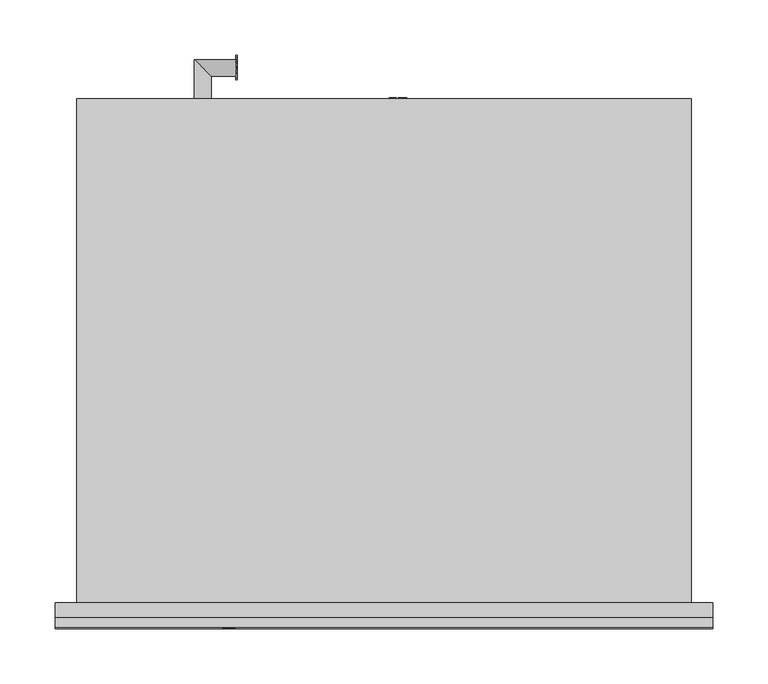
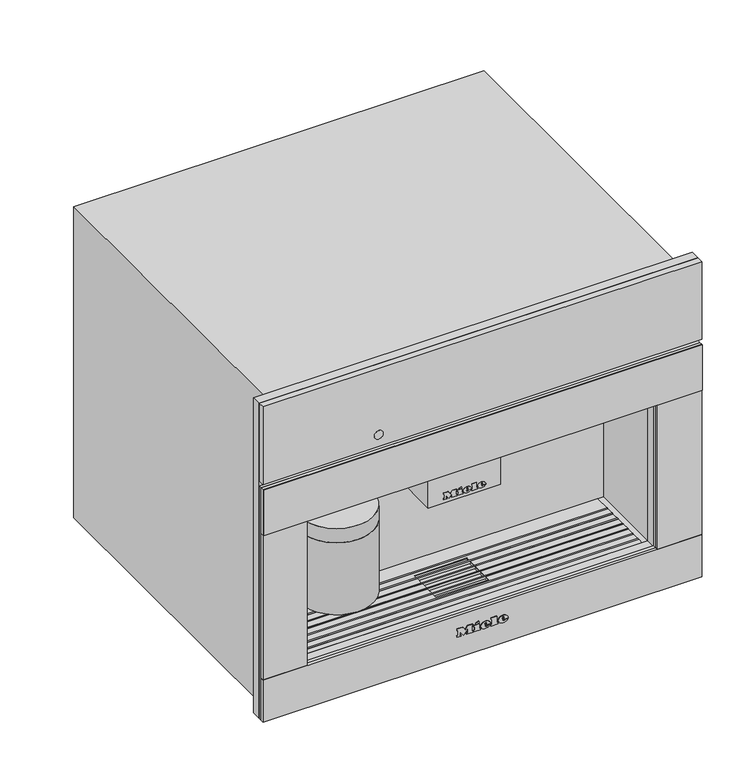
"""IFC4 building model written with IfcOpenShell, lengths in millimetres: proxy geometry, 11164540_F_CVA7445_EDST-CLST : 29744540_F_11164540_CVA7445_EDST-CLST."""

from ifc_helpers import new_model, si_unit, point, frame, frame_2d, origin, place, context, project, spatial, polyline, circle_curve, ellipse_curve, trimmed, segment, composite_curve, outline, extrude, faceted_brep, source, transform, mapped, element, save
from ifc_brep_helpers import plane_surface, cylinder_surface, revolved_surface, extruded_surface, advanced_brep


def specialty_equipment_d38e7a34(model_context):
    return source(origin(), model_context, "Body", "SolidModel", [
        extrude(outline(composite_curve([segment(trimmed(circle_curve(frame_2d((-14.0, 36.5)), 5.0), [point((-9.0, 36.5))], [point((-19.0, 36.5))], False, "CARTESIAN"), True, "CONTINUOUS"), segment(trimmed(circle_curve(frame_2d((-14.0, 36.5)), 5.0), [point((-19.0, 36.5))], [point((-9.0, 36.5))], False, "CARTESIAN"), True, "CONTINUOUS")], self_intersect=False)), frame((0.0, 0.0, 193.0), z_axis=(0.0, 0.0, 1.0), x_axis=(1.0, 0.0, 0.0)), (0.0, 0.0, 1.0), 5.0),
        extrude(outline(composite_curve([segment(trimmed(circle_curve(frame_2d((14.0, 36.5)), 5.0), [point((19.0, 36.5))], [point((9.0, 36.5))], False, "CARTESIAN"), True, "CONTINUOUS"), segment(trimmed(circle_curve(frame_2d((14.0, 36.5)), 5.0), [point((9.0, 36.5))], [point((19.0, 36.5))], False, "CARTESIAN"), True, "CONTINUOUS")], self_intersect=False)), frame((0.0, 0.0, 193.0), z_axis=(0.0, 0.0, 1.0), x_axis=(1.0, 0.0, 0.0)), (0.0, 0.0, 1.0), 5.0),
        extrude(outline(composite_curve([segment(trimmed(circle_curve(frame_2d((-156.5, 49.5)), 50.0), [point((-106.5, 49.5))], [point((-206.5, 49.5))], False, "CARTESIAN"), True, "CONTINUOUS"), segment(trimmed(circle_curve(frame_2d((-156.5, 49.5)), 50.0), [point((-206.5, 49.5))], [point((-106.5, 49.5))], False, "CARTESIAN"), True, "CONTINUOUS")], self_intersect=False)), frame((0.0, 0.0, 100.0), z_axis=(0.0, 0.0, 1.0), x_axis=(1.0, 0.0, 0.0)), (0.0, 0.0, 1.0), 103.0),
        extrude(outline(polyline([(-49.0, 95.0), (49.0, 95.0), (49.0, 20.0), (-49.0, 20.0), (-49.0, 95.0)])), frame((0.0, 0.0, 198.0), z_axis=(0.0, 0.0, 1.0), x_axis=(1.0, 0.0, 0.0)), (0.0, 0.0, 1.0), 75.0),
        extrude(outline(polyline([(455.5, 297.5), (455.5, -297.5), (4.0, -297.5), (4.0, 297.5), (455.5, 297.5)]), holes=[polyline([(273.0, 237.5), (63.0, 237.5), (63.0, -237.5), (273.0, -237.5), (273.0, 237.5)])]), frame((0.0, -13.0, 0.0), z_axis=(0.0, 1.0, 0.0), x_axis=(0.0, 0.0, 1.0)), (0.0, 0.0, 1.0), 13.0),
        extrude(outline(polyline([(473.48348, 22.0), (473.48348, 32.045631), (474.7391839, 32.045631), (474.7391839, 27.128275), (479.8895318, 32.045631), (481.6455552, 32.045631), (477.3217155, 27.9155425), (481.8025182, 22.0), (480.267224, 22.0), (476.4314411, 27.0669613), (474.7391839, 25.4531857), (474.7391839, 22.0), (473.48348, 22.0)])), frame((-134.0, 0.0, 0.0), z_axis=(1.0, 0.0, 0.0), x_axis=(0.0, 1.0, 0.0)), (0.0, 0.0, 1.0), 1.0),
        extrude(outline(polyline([(484.5420128, 22.0), (481.8025182, 32.045631), (483.0974628, 32.045631), (484.6867131, 25.4433755), (485.1772224, 23.4053092), (485.7020674, 25.207931), (487.6935352, 32.045631), (489.5599232, 32.045631), (491.0069257, 27.0890343), (492.0835937, 23.4053092), (492.5593878, 25.3845144), (494.1633533, 32.045631), (495.4582979, 32.045631), (492.7163507, 22.0), (491.3748077, 22.0), (488.9664069, 29.7500474), (488.630408, 30.8316204), (488.2527159, 29.5293182), (486.0576866, 22.0), (484.5420128, 22.0)])), frame((-134.0, 0.0, 0.0), z_axis=(1.0, 0.0, 0.0), x_axis=(0.0, 1.0, 0.0)), (0.0, 0.0, 1.0), 1.0),
        advanced_brep(
        [(-156.5, 456.0, 27.0), (-171.5, 456.0, 27.0), (-156.5, 476.5, 27.0), (-171.5, 491.5, 27.0), (-134.0, 476.5, 27.0), (-134.0, 491.5, 27.0)],
        [
            (0, 1, circle_curve(frame((-164.0, 456.0, 27.0), z_axis=(0.0, -1.0, 0.0), x_axis=(-1.0, 0.0, 0.0)), 7.5)),
            (1, 0, circle_curve(frame((-164.0, 456.0, 27.0), z_axis=(0.0, -1.0, 0.0), x_axis=(-1.0, 0.0, 0.0)), 7.5)),
            (0, 2),
            (2, 3, ellipse_curve(frame((-164.0, 484.0, 27.0), z_axis=(-0.707106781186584, -0.7071067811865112, 0.0), x_axis=(0.7071067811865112, -0.7071067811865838, 0.0)), 10.6066017, 7.5)),
            (3, 1),
            (3, 2, ellipse_curve(frame((-164.0, 484.0, 27.0), z_axis=(-0.707106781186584, -0.7071067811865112, 0.0), x_axis=(0.7071067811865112, -0.7071067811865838, 0.0)), 10.6066017, 7.5)),
            (4, 5, circle_curve(frame((-134.0, 484.0, 27.0), z_axis=(1.0, 0.0, 0.0), x_axis=(0.0, 1.0, 0.0)), 7.5)),
            (5, 4, circle_curve(frame((-134.0, 484.0, 27.0), z_axis=(1.0, 0.0, 0.0), x_axis=(0.0, 1.0, 0.0)), 7.5)),
            (2, 4),
            (5, 3),
        ],
        [
            plane_surface(frame((-164.0, 456.0, 27.0), z_axis=(0.0, -1.0, 0.0), x_axis=(0.0, 0.0, 1.0))),
            cylinder_surface(frame((-164.0, 456.0, 27.0), z_axis=(0.0, -1.0, 0.0), x_axis=(-1.0, 0.0, 0.0)), 7.5),
            plane_surface(frame((-134.0, 484.0, 27.0), z_axis=(1.0, 0.0, 0.0), x_axis=(0.0, 0.0, 1.0))),
            cylinder_surface(frame((-164.0, 484.0, 27.0), z_axis=(-1.0, 0.0, 0.0), x_axis=(0.0, 1.0, 0.0)), 7.5),
        ],
        [
            (0, [[1, 2]]),
            (1, [[-1, 3, 4, 5]]),
            (1, [[-2, -5, 6, -3]]),
            (2, [[7, 8]]),
            (3, [[-4, 9, -8, 10]]),
            (3, [[-6, -10, -7, -9]]),
        ],
    ),
        extrude(outline(polyline([(97.0, 20.4012141), (107.045631, 20.4012141), (107.045631, 13.1809168), (105.7899271, 13.1809168), (105.7899271, 19.1455102), (102.8076304, 19.1455102), (102.8076304, 13.4948427), (101.5519266, 13.4948427), (101.5519266, 19.1455102), (98.2557039, 19.1455102), (98.2557039, 13.0239538), (97.0, 13.0239538), (97.0, 20.4012141)])), frame((0.0, 456.0, 0.0), z_axis=(0.0, 1.0, 0.0), x_axis=(0.0, 0.0, 1.0)), (0.0, 0.0, 1.0), 1.0),
        extrude(outline(polyline([(97.0, 11.140398), (107.045631, 11.140398), (107.045631, 9.8846941), (98.2557039, 9.8846941), (98.2557039, 4.8618786), (97.0, 4.8618786), (97.0, 11.140398)])), frame((0.0, 456.0, 0.0), z_axis=(0.0, 1.0, 0.0), x_axis=(0.0, 0.0, 1.0)), (0.0, 0.0, 1.0), 1.0),
        advanced_brep(
        [(55.0, 425.5, 102.0), (55.0, 410.5, 102.0), (20.5239538, 425.5, 102.0), (5.5239538, 410.5, 102.0), (20.5239538, 456.0, 102.0), (5.5239538, 456.0, 102.0)],
        [
            (0, 1, circle_curve(frame((55.0, 418.0, 102.0), z_axis=(1.0, 0.0, 0.0), x_axis=(0.0, -1.0, 0.0)), 7.5)),
            (1, 0, circle_curve(frame((55.0, 418.0, 102.0), z_axis=(1.0, 0.0, 0.0), x_axis=(0.0, -1.0, 0.0)), 7.5)),
            (0, 2),
            (2, 3, ellipse_curve(frame((13.0239538, 418.0, 102.0), z_axis=(0.7071067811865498, -0.7071067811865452, 0.0), x_axis=(0.7071067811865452, 0.7071067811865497, 0.0)), 10.6066017, 7.5)),
            (3, 1),
            (3, 2, ellipse_curve(frame((13.0239538, 418.0, 102.0), z_axis=(0.7071067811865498, -0.7071067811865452, 0.0), x_axis=(0.7071067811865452, 0.7071067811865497, 0.0)), 10.6066017, 7.5)),
            (4, 5, circle_curve(frame((13.0239538, 456.0, 102.0), z_axis=(0.0, 1.0, 0.0), x_axis=(-1.0, 0.0, 0.0)), 7.5)),
            (5, 4, circle_curve(frame((13.0239538, 456.0, 102.0), z_axis=(0.0, 1.0, 0.0), x_axis=(-1.0, 0.0, 0.0)), 7.5)),
            (2, 4),
            (5, 3),
        ],
        [
            plane_surface(frame((55.0, 418.0, 102.0), z_axis=(1.0, 0.0, 0.0), x_axis=(0.0, 0.0, 1.0))),
            cylinder_surface(frame((55.0, 418.0, 102.0), z_axis=(1.0, 0.0, 0.0), x_axis=(0.0, -1.0, 0.0)), 7.5),
            plane_surface(frame((13.0239538, 456.0, 102.0), z_axis=(0.0, 1.0, 0.0), x_axis=(0.0, 0.0, 1.0))),
            cylinder_surface(frame((13.0239538, 418.0, 102.0), z_axis=(0.0, -1.0, 0.0), x_axis=(-1.0, 0.0, 0.0)), 7.5),
        ],
        [
            (0, [[1, 2]]),
            (1, [[-1, 3, 4, 5]]),
            (1, [[-2, -5, 6, -3]]),
            (2, [[7, 8]]),
            (3, [[-4, 9, -8, 10]]),
            (3, [[-6, -10, -7, -9]]),
        ],
    ),
        advanced_brep(
        [(-110.0, 49.5, 252.0), (-203.0, 49.5, 252.0), (-206.5, 49.5, 223.5), (-106.5, 49.5, 223.5), (-110.0, 49.5, 273.0), (-203.0, 49.5, 273.0), (-156.5, 49.5, 273.0), (-106.5, 49.5, 203.0), (-206.5, 49.5, 203.0), (-156.5, 49.5, 203.0)],
        [
            (0, 1, circle_curve(frame((-156.5, 49.5, 252.0), z_axis=(0.0, 0.0, -1.0), x_axis=(-1.0, 0.0, 0.0)), 46.5)),
            (1, 2, circle_curve(frame((-206.7961166, 49.5, 238.0012775), z_axis=(0.0, 1.0, 0.0), x_axis=(-1.0, 0.0, 0.0)), 14.5043005)),
            (2, 3, circle_curve(frame((-156.5, 49.5, 223.5), z_axis=(0.0, 0.0, 1.0), x_axis=(-1.0, 0.0, 0.0)), 50.0)),
            (3, 0, circle_curve(frame((-106.2038834, 49.5, 238.0012775), z_axis=(0.0, 1.0, 0.0), x_axis=(1.0, 0.0, 0.0)), 14.5043005)),
            (4, 5, circle_curve(frame((-156.5, 49.5, 273.0), z_axis=(0.0, 0.0, -1.0), x_axis=(-1.0, 0.0, 0.0)), 46.5)),
            (5, 1),
            (0, 4),
            (6, 4),
            (4, 5, circle_curve(frame((-156.5, 49.5, 273.0), z_axis=(0.0, 0.0, 1.0), x_axis=(-1.0, 0.0, 0.0)), 46.5)),
            (5, 6),
            (7, 8, circle_curve(frame((-156.5, 49.5, 203.0), z_axis=(0.0, 0.0, -1.0), x_axis=(-1.0, 0.0, 0.0)), 50.0)),
            (8, 9),
            (9, 7),
            (8, 7, circle_curve(frame((-156.5, 49.5, 203.0), z_axis=(0.0, 0.0, -1.0), x_axis=(-1.0, 0.0, 0.0)), 50.0)),
            (2, 8),
            (7, 3),
            (2, 3, circle_curve(frame((-156.5, 49.5, 223.5), z_axis=(0.0, 0.0, -1.0), x_axis=(-1.0, 0.0, 0.0)), 50.0)),
            (1, 0, circle_curve(frame((-156.5, 49.5, 252.0), z_axis=(0.0, 0.0, -1.0), x_axis=(-1.0, 0.0, 0.0)), 46.5)),
        ],
        [
            revolved_surface(trimmed(ellipse_curve(frame((-206.7961166, 49.5, 238.0012775), z_axis=(0.0, -1.0, 0.0), x_axis=(-1.0, 0.0, 0.0)), 14.5043005, 14.5043005), [point((-206.5, 49.5, 223.5))], [point((-203.0, 49.5, 252.0))], True, "CARTESIAN"), (-156.5, 49.5, 388.7361736), (0.0, 0.0, 1.0)),
            cylinder_surface(frame((-156.5, 49.5, 388.7361736), z_axis=(0.0, 0.0, 1.0), x_axis=(-1.0, 0.0, 0.0)), 46.5),
            plane_surface(frame((-156.5, 49.5, 273.0), z_axis=(0.0, 0.0, 1.0), x_axis=(-1.0, 0.0, 0.0))),
            plane_surface(frame((-156.5, 49.5, 203.0), z_axis=(0.0, 0.0, -1.0), x_axis=(-1.0, 0.0, 0.0))),
            cylinder_surface(frame((-156.5, 49.5, 388.7361736), z_axis=(0.0, 0.0, 1.0), x_axis=(-1.0, 0.0, 0.0)), 50.0),
        ],
        [
            (0, [[1, 2, 3, 4]]),
            (1, [[5, 6, -1, 7]]),
            (2, [[8, 9, 10]]),
            (3, [[11, 12, 13]]),
            (3, [[14, -13, -12]]),
            (4, [[-3, 15, -11, 16]]),
            (4, [[17, -16, -14, -15]]),
            (0, [[18, -4, -17, -2]]),
            (1, [[-9, -7, -18, -6]]),
            (2, [[-10, -5, -8]]),
        ],
    ),
        faceted_brep([(229.5, 82.0925571, 60.0), (229.5, 80.0925571, 60.0), (-229.5, 80.0925571, 60.0), (-229.5, 82.0925571, 60.0), (229.5, 70.0550731, 60.0), (229.5, 68.0550731, 60.0), (-229.5, 68.0550731, 60.0), (-229.5, 70.0550731, 60.0), (229.5, 58.0175891, 60.0), (229.5, 56.0175891, 60.0), (-229.5, 56.0175891, 60.0), (-229.5, 58.0175891, 60.0), (229.5, 45.9801052, 60.0), (229.5, 43.9801052, 60.0), (-229.5, 43.9801052, 60.0), (-229.5, 45.9801052, 60.0), (229.5, 33.9426212, 60.0), (229.5, 31.9426212, 60.0), (-229.5, 31.9426212, 60.0), (-229.5, 33.9426212, 60.0), (229.5, 21.9776522, 60.0), (229.5, 19.9776522, 60.0), (-229.5, 19.9776522, 60.0), (-229.5, 21.9776522, 60.0), (229.5, 10.0, 60.0), (229.5, 8.0, 60.0), (-229.5, 8.0, 60.0), (-229.5, 10.0, 60.0), (-229.5, 45.9801052, 62.0), (-36.0, 45.9801052, 62.0), (-36.0, 45.9801052, 63.0), (-229.5, 45.9801052, 63.0), (-229.5, 45.9801052, 63.5), (229.5, 45.9801052, 63.5), (229.5, 45.9801052, 63.0), (36.0, 45.9801052, 63.0), (36.0, 45.9801052, 62.0), (229.5, 45.9801052, 62.0), (229.5, 19.9776522, 62.0), (229.5, 10.0, 62.0), (-229.5, 10.0, 62.0), (-229.5, 19.9776522, 62.0), (229.5, 43.9801052, 62.0), (229.5, 33.9426212, 62.0), (36.0, 33.9426212, 62.0), (36.0, 43.9801052, 62.0), (229.5, 56.0175891, 62.0), (36.0, 56.0175891, 62.0), (229.5, 68.0550731, 62.0), (229.5, 58.0175891, 62.0), (36.0, 58.0175891, 62.0), (36.0, 68.0550731, 62.0), (-229.5, 33.9426212, 62.0), (-229.5, 43.9801052, 62.0), (-36.0, 43.9801052, 62.0), (-36.0, 33.9426212, 62.0), (-229.5, 56.0175891, 62.0), (-36.0, 56.0175891, 62.0), (-229.5, 58.0175891, 62.0), (-229.5, 68.0550731, 62.0), (-36.0, 68.0550731, 62.0), (-36.0, 58.0175891, 62.0), (-229.5, 104.5, 62.0), (229.5, 104.5, 62.0), (229.5, 82.0925571, 62.0), (-229.5, 82.0925571, 62.0), (36.0, 76.0, 62.0), (-36.0, 76.0, 62.0), (-36.0, 70.0550731, 62.0), (-229.5, 70.0550731, 62.0), (-229.5, 80.0925571, 62.0), (229.5, 80.0925571, 62.0), (229.5, 70.0550731, 62.0), (36.0, 70.0550731, 62.0), (229.5, 0.0, 62.0), (-229.5, 0.0, 62.0), (-229.5, 8.0, 62.0), (229.5, 8.0, 62.0), (-36.0, 25.0, 62.0), (36.0, 25.0, 62.0), (36.0, 31.9426212, 62.0), (229.5, 31.9426212, 62.0), (229.5, 21.9776522, 62.0), (-229.5, 21.9776522, 62.0), (-229.5, 31.9426212, 62.0), (-36.0, 31.9426212, 62.0), (229.5, 104.5, 63.0), (-229.5, 104.5, 63.0), (-229.5, 82.0925571, 63.0), (229.5, 82.0925571, 63.0), (-229.5, 0.0, 63.0), (229.5, 0.0, 63.0), (229.5, 8.0, 63.0), (-229.5, 8.0, 63.0), (-36.0, 76.0, 63.0), (36.0, 76.0, 63.0), (36.0, 70.0550731, 63.0), (229.5, 70.0550731, 63.0), (229.5, 80.0925571, 63.0), (-229.5, 80.0925571, 63.0), (-229.5, 70.0550731, 63.0), (-36.0, 70.0550731, 63.0), (36.0, 25.0, 63.0), (-36.0, 25.0, 63.0), (-36.0, 31.9426212, 63.0), (-229.5, 31.9426212, 63.0), (-229.5, 21.9776522, 63.0), (229.5, 21.9776522, 63.0), (229.5, 31.9426212, 63.0), (36.0, 31.9426212, 63.0), (-229.5, 19.9776522, 63.0), (-229.5, 10.0, 63.0), (229.5, 10.0, 63.0), (229.5, 19.9776522, 63.0), (-229.5, 43.9801052, 63.0), (-229.5, 33.9426212, 63.0), (-36.0, 33.9426212, 63.0), (-36.0, 43.9801052, 63.0), (-229.5, 56.0175891, 63.0), (-36.0, 56.0175891, 63.0), (-229.5, 68.0550731, 63.0), (-229.5, 58.0175891, 63.0), (-36.0, 58.0175891, 63.0), (-36.0, 68.0550731, 63.0), (229.5, 33.9426212, 63.0), (229.5, 43.9801052, 63.0), (36.0, 43.9801052, 63.0), (36.0, 33.9426212, 63.0), (229.5, 56.0175891, 63.0), (36.0, 56.0175891, 63.0), (229.5, 58.0175891, 63.0), (229.5, 68.0550731, 63.0), (36.0, 68.0550731, 63.0), (36.0, 58.0175891, 63.0), (-229.5, 8.0, 63.5), (-229.5, 10.0, 63.5), (-229.5, 19.9776522, 63.5), (-229.5, 21.9776522, 63.5), (-229.5, 31.9426212, 63.5), (-229.5, 33.9426212, 63.5), (-229.5, 43.9801052, 63.5), (-229.5, 56.0175891, 63.5), (-229.5, 58.0175891, 63.5), (-229.5, 68.0550731, 63.5), (-229.5, 70.0550731, 63.5), (-229.5, 80.0925571, 63.5), (-229.5, 82.0925571, 63.5), (229.5, 82.0925571, 63.5), (229.5, 80.0925571, 63.5), (229.5, 70.0550731, 63.5), (229.5, 68.0550731, 63.5), (229.5, 58.0175891, 63.5), (229.5, 56.0175891, 63.5), (229.5, 43.9801052, 63.5), (229.5, 33.9426212, 63.5), (229.5, 31.9426212, 63.5), (229.5, 21.9776522, 63.5), (229.5, 19.9776522, 63.5), (229.5, 10.0, 63.5), (229.5, 8.0, 63.5)], [[[0, 1, 2, 3]], [[4, 5, 6, 7]], [[8, 9, 10, 11]], [[12, 13, 14, 15]], [[16, 17, 18, 19]], [[20, 21, 22, 23]], [[24, 25, 26, 27]], [[12, 15, 28, 29, 30, 31, 32, 33, 34, 35, 36, 37]], [[38, 39, 40, 41]], [[42, 43, 44, 45]], [[46, 37, 36, 47]], [[48, 49, 50, 51]], [[52, 53, 54, 55]], [[28, 56, 57, 29]], [[58, 59, 60, 61]], [[62, 63, 64, 65]], [[66, 67, 68, 69, 70, 71, 72, 73]], [[74, 75, 76, 77]], [[78, 79, 80, 81, 82, 83, 84, 85]], [[86, 87, 88, 89]], [[90, 91, 92, 93]], [[94, 95, 96, 97, 98, 99, 100, 101]], [[102, 103, 104, 105, 106, 107, 108, 109]], [[110, 111, 112, 113]], [[114, 115, 116, 117]], [[118, 31, 30, 119]], [[120, 121, 122, 123]], [[124, 125, 126, 127]], [[34, 128, 129, 35]], [[130, 131, 132, 133]], [[63, 62, 87, 86]], [[87, 62, 65, 3, 2, 70, 69, 7, 6, 59, 58, 11, 10, 56, 28, 15, 14, 53, 52, 19, 18, 84, 83, 23, 22, 41, 40, 27, 26, 76, 75, 90, 93, 134, 135, 111, 110, 136, 137, 106, 105, 138, 139, 115, 114, 140, 32, 31, 118, 141, 142, 121, 120, 143, 144, 100, 99, 145, 146, 88]], [[75, 74, 91, 90]], [[63, 86, 89, 147, 148, 98, 97, 149, 150, 131, 130, 151, 152, 128, 34, 33, 153, 125, 124, 154, 155, 108, 107, 156, 157, 113, 112, 158, 159, 92, 91, 74, 77, 25, 24, 39, 38, 21, 20, 82, 81, 17, 16, 43, 42, 13, 12, 37, 46, 9, 8, 49, 48, 5, 4, 72, 71, 1, 0, 64]], [[66, 95, 94, 67]], [[55, 54, 117, 116]], [[29, 57, 119, 30]], [[61, 60, 123, 122]], [[67, 94, 101, 68]], [[103, 78, 85, 104]], [[78, 103, 102, 79]], [[45, 44, 127, 126]], [[47, 36, 35, 129]], [[51, 50, 133, 132]], [[95, 66, 73, 96]], [[79, 102, 109, 80]], [[158, 135, 134, 159]], [[156, 137, 136, 157]], [[154, 139, 138, 155]], [[33, 32, 140, 153]], [[151, 142, 141, 152]], [[149, 144, 143, 150]], [[147, 146, 145, 148]], [[24, 27, 40, 39]], [[135, 158, 112, 111]], [[26, 25, 77, 76]], [[159, 134, 93, 92]], [[20, 23, 83, 82]], [[137, 156, 107, 106]], [[22, 21, 38, 41]], [[157, 136, 110, 113]], [[16, 19, 52, 55, 116, 115, 139, 154, 124, 127, 44, 43]], [[18, 17, 81, 80, 109, 108, 155, 138, 105, 104, 85, 84]], [[14, 13, 42, 45, 126, 125, 153, 140, 114, 117, 54, 53]], [[8, 11, 58, 61, 122, 121, 142, 151, 130, 133, 50, 49]], [[10, 9, 46, 47, 129, 128, 152, 141, 118, 119, 57, 56]], [[4, 7, 69, 68, 101, 100, 144, 149, 97, 96, 73, 72]], [[6, 5, 48, 51, 132, 131, 150, 143, 120, 123, 60, 59]], [[0, 3, 65, 64]], [[146, 147, 89, 88]], [[2, 1, 71, 70]], [[148, 145, 99, 98]]]),
        faceted_brep([(-278.0, 456.0, 0.0), (-278.0, 0.0, 0.0), (-278.0, 0.0, 446.0), (-278.0, 456.0, 446.0), (278.0, 456.0, 0.0), (278.0, 456.0, 446.0), (278.0, 0.0, 446.0), (278.0, 0.0, 0.0), (55.0, 456.0, 133.0), (-22.0, 456.0, 133.0), (-22.0, 456.0, 89.0), (35.0, 456.0, 66.0), (55.0, 456.0, 66.0), (-36.0, 76.0, 58.0), (36.0, 76.0, 58.0), (36.0, 76.0, 62.0), (-36.0, 76.0, 62.0), (36.0, 25.0, 58.0), (-36.0, 25.0, 58.0), (-36.0, 25.0, 62.0), (36.0, 25.0, 62.0), (237.5, 0.0, 273.0), (237.5, 0.0, 63.0), (229.5, 0.0, 63.0), (229.5, 0.0, 62.0), (-229.5, 0.0, 62.0), (-229.5, 0.0, 63.0), (-237.5, 0.0, 63.0), (-237.5, 0.0, 273.0), (237.5, 104.5, 273.0), (-237.5, 104.5, 273.0), (-237.5, 104.5, 63.0), (-229.5, 104.5, 63.0), (-229.5, 104.5, 62.0), (229.5, 104.5, 62.0), (229.5, 104.5, 63.0), (237.5, 104.5, 63.0), (-22.0, 400.0, 133.0), (55.0, 400.0, 133.0), (55.0, 400.0, 66.0), (35.0, 400.0, 66.0), (-22.0, 400.0, 89.0)], [[[0, 1, 2, 3]], [[4, 5, 6, 7]], [[0, 3, 5, 4], [8, 9, 10, 11, 12]], [[13, 14, 15, 16]], [[17, 18, 19, 20]], [[3, 2, 6, 5]], [[2, 1, 7, 6], [21, 22, 23, 24, 25, 26, 27, 28]], [[1, 0, 4, 7]], [[29, 30, 31, 32, 33, 34, 35, 36]], [[29, 36, 22, 21]], [[22, 36, 35, 23]], [[31, 27, 26, 32]], [[31, 30, 28, 27]], [[30, 29, 21, 28]], [[34, 33, 25, 24], [16, 15, 20, 19]], [[25, 33, 32, 26]], [[34, 24, 23, 35]], [[14, 13, 18, 17]], [[18, 13, 16, 19]], [[14, 17, 20, 15]], [[37, 38, 39, 40, 41]], [[38, 37, 9, 8]], [[39, 38, 8, 12]], [[40, 39, 12, 11]], [[41, 40, 11, 10]], [[37, 41, 10, 9]]]),
        advanced_brep(
        [(27.088, -23.0, 36.7018), (27.088, -23.0, 37.8532), (34.7146, -23.0, 37.8532), (21.445, -23.0, 37.8532), (24.58, -23.0, 34.0), (34.5208, -23.0, 36.7018), (31.078, -23.0, 36.7018), (28.3648, -23.0, 35.425), (27.088, -23.0, 39.3124), (27.088, -23.0, 40.555), (29.0374, -23.0, 40.555), (29.0374, -23.0, 39.3124), (27.088, -22.0, 36.7018), (28.3648, -22.0, 35.425), (31.078, -22.0, 36.7018), (34.5208, -22.0, 36.7018), (24.58, -22.0, 34.0), (21.445, -22.0, 37.8532), (34.7146, -22.0, 37.8532), (27.088, -22.0, 37.8532), (27.088, -22.0, 39.3124), (29.0374, -22.0, 39.3124), (29.0374, -22.0, 40.555), (27.088, -22.0, 40.555)],
        [
            (0, 1),
            (1, 2),
            (2, 3, ellipse_curve(frame((28.0798, -23.0, 37.8532), z_axis=(0.0, -1.0, 0.0), x_axis=(-1.0, 0.0, 0.0)), 6.6348, 5.4834)),
            (3, 4, circle_curve(frame((25.8568622, -23.0, 38.2408), z_axis=(0.0, -1.0, 0.0), x_axis=(0.0, 0.0, -1.0)), 4.4288556)),
            (4, 5, circle_curve(frame((27.9469808, -23.0, 41.2504), z_axis=(0.0, -1.0, 0.0), x_axis=(0.0, 0.0, -1.0)), 7.9940516)),
            (5, 6),
            (6, 7, circle_curve(frame((28.9220588, -23.0, 37.762), z_axis=(0.0, 1.0, 0.0), x_axis=(0.0, 0.0, -1.0)), 2.4025208)),
            (7, 0, circle_curve(frame((28.3648, -23.0, 36.7018), z_axis=(0.0, 1.0, 0.0), x_axis=(0.0, 0.0, -1.0)), 1.2768)),
            (8, 9),
            (9, 10, circle_curve(frame((28.0627, -23.0, 40.555), z_axis=(0.0, 1.0, 0.0), x_axis=(0.0, 0.0, -1.0)), 0.9747)),
            (10, 11),
            (11, 8),
            (12, 13, circle_curve(frame((28.3648, -22.0, 36.7018), z_axis=(0.0, -1.0, 0.0), x_axis=(0.0, 0.0, -1.0)), 1.2768)),
            (13, 14, circle_curve(frame((28.9220588, -22.0, 37.762), z_axis=(0.0, -1.0, 0.0), x_axis=(0.0, 0.0, -1.0)), 2.4025208)),
            (14, 15),
            (15, 16, circle_curve(frame((27.9469808, -22.0, 41.2504), z_axis=(0.0, 1.0, 0.0), x_axis=(0.0, 0.0, -1.0)), 7.9940516)),
            (16, 17, circle_curve(frame((25.8568622, -22.0, 38.2408), z_axis=(0.0, 1.0, 0.0), x_axis=(0.0, 0.0, -1.0)), 4.4288556)),
            (17, 18, ellipse_curve(frame((28.0798, -22.0, 37.8532), z_axis=(0.0, 1.0, 0.0), x_axis=(-1.0, 0.0, 0.0)), 6.6348, 5.4834)),
            (18, 19),
            (19, 12),
            (20, 21),
            (21, 22),
            (22, 23, circle_curve(frame((28.0627, -22.0, 40.555), z_axis=(0.0, -1.0, 0.0), x_axis=(0.0, 0.0, -1.0)), 0.9747)),
            (23, 20),
            (0, 12),
            (19, 1),
            (18, 2),
            (5, 15),
            (14, 6),
            (17, 3),
            (13, 7),
            (16, 4),
            (8, 20),
            (23, 9),
            (22, 10),
            (21, 11),
        ],
        [
            plane_surface(frame((27.088, -23.0, 37.8532), z_axis=(0.0, -1.0, 0.0), x_axis=(0.0, 0.0, 1.0))),
            plane_surface(frame((27.088, -22.0, 37.8532), z_axis=(0.0, 1.0, 0.0), x_axis=(0.0, 0.0, -1.0))),
            plane_surface(frame((27.088, -23.0, 36.7018), z_axis=(1.0, 0.0, 0.0), x_axis=(0.0, 1.0, 0.0))),
            plane_surface(frame((27.088, -23.0, 37.8532), z_axis=(0.0, 0.0, -1.0), x_axis=(0.0, 1.0, 0.0))),
            plane_surface(frame((34.5208, -23.0, 36.7018), z_axis=(0.0, 0.0, 1.0), x_axis=(0.0, 1.0, 0.0))),
            extruded_surface(trimmed(ellipse_curve(frame((28.0798, -21.0, 37.8532), z_axis=(0.0, -1.0, 0.0), x_axis=(-1.0, 0.0, 0.0)), 6.6348, 5.4834), [point((34.7146, -21.0, 37.8532))], [point((21.445, -21.0, 37.8532))], True, "CARTESIAN"), (0.0, -1.0, 0.0), 1.0),
            revolved_surface(polyline([(28.9220588, -22.0, 35.3594792), (28.9220588, -23.0, 35.3594792)]), (28.9220588, -22.0, 37.762), (0.0, 1.0, 0.0)),
            revolved_surface(polyline([(28.3648, -22.0, 35.425), (28.3648, -23.0, 35.425)]), (28.3648, -22.0, 36.7018), (0.0, 1.0, 0.0)),
            cylinder_surface(frame((25.8568622, -22.0, 38.2408), z_axis=(0.0, -1.0, 0.0), x_axis=(0.0, 0.0, -1.0)), 4.4288556),
            cylinder_surface(frame((27.9469808, -22.0, 41.2504), z_axis=(0.0, -1.0, 0.0), x_axis=(0.0, 0.0, -1.0)), 7.9940516),
            plane_surface(frame((27.088, -23.0, 39.3124), z_axis=(1.0, 0.0, 0.0), x_axis=(0.0, 1.0, 0.0))),
            revolved_surface(polyline([(28.0627, -22.0, 39.5803), (28.0627, -23.0, 39.5803)]), (28.0627, -22.0, 40.555), (0.0, 1.0, 0.0)),
            plane_surface(frame((29.0374, -23.0, 40.555), z_axis=(-1.0, 0.0, 0.0), x_axis=(0.0, 1.0, 0.0))),
            plane_surface(frame((29.0374, -23.0, 39.3124), z_axis=(0.0, 0.0, 1.0), x_axis=(0.0, 1.0, 0.0))),
        ],
        [
            (0, [[1, 2, 3, 4, 5, 6, 7, 8], [9, 10, 11, 12]]),
            (1, [[13, 14, 15, 16, 17, 18, 19, 20], [21, 22, 23, 24]]),
            (2, [[-1, 25, -20, 26]]),
            (3, [[-2, -26, -19, 27]]),
            (4, [[-6, 28, -15, 29]]),
            (5, [[-3, -27, -18, 30]]),
            (6, [[-7, -29, -14, 31]]),
            (7, [[-8, -31, -13, -25]]),
            (8, [[-4, -30, -17, 32]]),
            (9, [[-5, -32, -16, -28]]),
            (10, [[-9, 33, -24, 34]]),
            (11, [[-10, -34, -23, 35]]),
            (12, [[-11, -35, -22, 36]]),
            (13, [[-12, -36, -21, -33]]),
        ],
    ),
        advanced_brep(
        [(3.2962, -23.0, 36.7018), (3.2962, -23.0, 37.8532), (10.9228, -23.0, 37.8532), (-2.3468, -23.0, 37.8532), (0.7882, -23.0, 34.0), (10.729, -23.0, 36.7018), (7.2862, -23.0, 36.7018), (4.573, -23.0, 35.425), (3.2962, -23.0, 39.3124), (3.2962, -23.0, 40.555), (5.2456, -23.0, 40.555), (5.2456, -23.0, 39.3124), (3.2962, -22.0, 36.7018), (4.573, -22.0, 35.425), (7.2862, -22.0, 36.7018), (10.729, -22.0, 36.7018), (0.7882, -22.0, 34.0), (-2.3468, -22.0, 37.8532), (10.9228, -22.0, 37.8532), (3.2962, -22.0, 37.8532), (3.2962, -22.0, 39.3124), (5.2456, -22.0, 39.3124), (5.2456, -22.0, 40.555), (3.2962, -22.0, 40.555)],
        [
            (0, 1),
            (1, 2),
            (2, 3, ellipse_curve(frame((4.288, -23.0, 37.8532), z_axis=(0.0, -1.0, 0.0), x_axis=(-1.0, 0.0, 0.0)), 6.6348, 5.4834)),
            (3, 4, circle_curve(frame((2.0650622, -23.0, 38.2408), z_axis=(0.0, -1.0, 0.0), x_axis=(0.0, 0.0, -1.0)), 4.4288556)),
            (4, 5, circle_curve(frame((4.1551808, -23.0, 41.2504), z_axis=(0.0, -1.0, 0.0), x_axis=(0.0, 0.0, -1.0)), 7.9940516)),
            (5, 6),
            (6, 7, circle_curve(frame((5.1302588, -23.0, 37.762), z_axis=(0.0, 1.0, 0.0), x_axis=(0.0, 0.0, -1.0)), 2.4025208)),
            (7, 0, circle_curve(frame((4.573, -23.0, 36.7018), z_axis=(0.0, 1.0, 0.0), x_axis=(0.0, 0.0, -1.0)), 1.2768)),
            (8, 9),
            (9, 10, circle_curve(frame((4.2709, -23.0, 40.555), z_axis=(0.0, 1.0, 0.0), x_axis=(0.0, 0.0, -1.0)), 0.9747)),
            (10, 11),
            (11, 8),
            (12, 13, circle_curve(frame((4.573, -22.0, 36.7018), z_axis=(0.0, -1.0, 0.0), x_axis=(0.0, 0.0, -1.0)), 1.2768)),
            (13, 14, circle_curve(frame((5.1302588, -22.0, 37.762), z_axis=(0.0, -1.0, 0.0), x_axis=(0.0, 0.0, -1.0)), 2.4025208)),
            (14, 15),
            (15, 16, circle_curve(frame((4.1551808, -22.0, 41.2504), z_axis=(0.0, 1.0, 0.0), x_axis=(0.0, 0.0, -1.0)), 7.9940516)),
            (16, 17, circle_curve(frame((2.0650622, -22.0, 38.2408), z_axis=(0.0, 1.0, 0.0), x_axis=(0.0, 0.0, -1.0)), 4.4288556)),
            (17, 18, ellipse_curve(frame((4.288, -22.0, 37.8532), z_axis=(0.0, 1.0, 0.0), x_axis=(-1.0, 0.0, 0.0)), 6.6348, 5.4834)),
            (18, 19),
            (19, 12),
            (20, 21),
            (21, 22),
            (22, 23, circle_curve(frame((4.2709, -22.0, 40.555), z_axis=(0.0, -1.0, 0.0), x_axis=(0.0, 0.0, -1.0)), 0.9747)),
            (23, 20),
            (0, 12),
            (19, 1),
            (18, 2),
            (5, 15),
            (14, 6),
            (17, 3),
            (13, 7),
            (16, 4),
            (8, 20),
            (23, 9),
            (22, 10),
            (21, 11),
        ],
        [
            plane_surface(frame((3.2962, -23.0, 37.8532), z_axis=(0.0, -1.0, 0.0), x_axis=(0.0, 0.0, 1.0))),
            plane_surface(frame((3.2962, -22.0, 37.8532), z_axis=(0.0, 1.0, 0.0), x_axis=(0.0, 0.0, -1.0))),
            plane_surface(frame((3.2962, -23.0, 36.7018), z_axis=(1.0, 0.0, 0.0), x_axis=(0.0, 1.0, 0.0))),
            plane_surface(frame((3.2962, -23.0, 37.8532), z_axis=(0.0, 0.0, -1.0), x_axis=(0.0, 1.0, 0.0))),
            plane_surface(frame((10.729, -23.0, 36.7018), z_axis=(0.0, 0.0, 1.0), x_axis=(0.0, 1.0, 0.0))),
            extruded_surface(trimmed(ellipse_curve(frame((4.288, -21.0, 37.8532), z_axis=(0.0, -1.0, 0.0), x_axis=(-1.0, 0.0, 0.0)), 6.6348, 5.4834), [point((10.9228, -21.0, 37.8532))], [point((-2.3468, -21.0, 37.8532))], True, "CARTESIAN"), (0.0, -1.0, 0.0), 1.0),
            revolved_surface(polyline([(5.1302588, -22.0, 35.3594792), (5.1302588, -23.0, 35.3594792)]), (5.1302588, -22.0, 37.762), (0.0, 1.0, 0.0)),
            revolved_surface(polyline([(4.573, -22.0, 35.425), (4.573, -23.0, 35.425)]), (4.573, -22.0, 36.7018), (0.0, 1.0, 0.0)),
            cylinder_surface(frame((2.0650622, -22.0, 38.2408), z_axis=(0.0, -1.0, 0.0), x_axis=(0.0, 0.0, -1.0)), 4.4288556),
            cylinder_surface(frame((4.1551808, -22.0, 41.2504), z_axis=(0.0, -1.0, 0.0), x_axis=(0.0, 0.0, -1.0)), 7.9940516),
            plane_surface(frame((3.2962, -23.0, 39.3124), z_axis=(1.0, 0.0, 0.0), x_axis=(0.0, 1.0, 0.0))),
            revolved_surface(polyline([(4.2709, -22.0, 39.5803), (4.2709, -23.0, 39.5803)]), (4.2709, -22.0, 40.555), (0.0, 1.0, 0.0)),
            plane_surface(frame((5.2456, -23.0, 40.555), z_axis=(-1.0, 0.0, 0.0), x_axis=(0.0, 1.0, 0.0))),
            plane_surface(frame((5.2456, -23.0, 39.3124), z_axis=(0.0, 0.0, 1.0), x_axis=(0.0, 1.0, 0.0))),
        ],
        [
            (0, [[1, 2, 3, 4, 5, 6, 7, 8], [9, 10, 11, 12]]),
            (1, [[13, 14, 15, 16, 17, 18, 19, 20], [21, 22, 23, 24]]),
            (2, [[-1, 25, -20, 26]]),
            (3, [[-2, -26, -19, 27]]),
            (4, [[-6, 28, -15, 29]]),
            (5, [[-3, -27, -18, 30]]),
            (6, [[-7, -29, -14, 31]]),
            (7, [[-8, -31, -13, -25]]),
            (8, [[-4, -30, -17, 32]]),
            (9, [[-5, -32, -16, -28]]),
            (10, [[-9, 33, -24, 34]]),
            (11, [[-10, -34, -23, 35]]),
            (12, [[-11, -35, -22, 36]]),
            (13, [[-12, -36, -21, -33]]),
        ],
    ),
        extrude(outline(polyline([(44.7274, -9.164), (42.8806, -8.2976), (44.6818, -4.433), (46.5286, -5.288), (44.7274, -9.164)])), frame((0.0, -23.0, 0.0), z_axis=(0.0, 1.0, 0.0), x_axis=(0.0, 0.0, 1.0)), (0.0, 0.0, 1.0), 1.0),
        extrude(outline(polyline([(42.6298, -11.9798), (40.5892, -11.9798), (40.5892, -10.6232), (35.9152, -10.6232), (35.9152, -11.9798), (34.0, -11.9798), (34.0, -2.9852), (35.9152, -2.9852), (35.9152, -4.3076), (42.6298, -4.3076), (42.6298, -11.9798)])), frame((0.0, -23.0, 0.0), z_axis=(0.0, 1.0, 0.0), x_axis=(0.0, 0.0, 1.0)), (0.0, 0.0, 1.0), 1.0),
        extrude(outline(polyline([(43.5418, 11.5612), (43.5418, 12.9292), (35.9152, 12.9292), (35.9152, 11.5612), (34.0, 11.5612), (34.0, 20.8066), (35.9152, 20.8066), (35.9152, 19.4044), (45.4, 19.4044), (45.4, 11.5612), (43.5418, 11.5612)])), frame((0.0, -23.0, 0.0), z_axis=(0.0, 1.0, 0.0), x_axis=(0.0, 0.0, 1.0)), (0.0, 0.0, 1.0), 1.0),
        extrude(outline(polyline([(43.5418, -34.7), (43.5418, -33.3206), (35.9152, -33.3206), (35.9152, -34.7), (34.0, -34.7), (34.0, -29.684), (35.9152, -29.684), (35.9152, -31.052), (40.7429247, -31.052), (34.0, -25.9562), (40.9402223, -20.8376), (35.9152, -20.8376), (35.9152, -22.2398), (34.0, -22.2398), (34.0, -13.1426), (35.9152, -13.1426), (35.9152, -14.5904), (43.5418, -14.5904), (43.5418, -13.1426), (45.4, -13.1426), (45.4, -20.0852), (41.125, -23.414), (45.4, -26.7542), (45.4, -34.7), (43.5418, -34.7)])), frame((0.0, -23.0, 0.0), z_axis=(0.0, 1.0, 0.0), x_axis=(0.0, 0.0, 1.0)), (0.0, 0.0, 1.0), 1.0),
        advanced_brep(
        [(22.348, 19.0, 205.5278), (22.348, 19.0, 206.4772), (28.6366, 19.0, 206.4772), (17.695, 19.0, 206.4772), (20.28, 19.0, 203.3), (28.4768, 19.0, 205.5278), (25.638, 19.0, 205.5278), (23.4008, 19.0, 204.475), (22.348, 19.0, 207.6804), (22.348, 19.0, 208.705), (23.9554, 19.0, 208.705), (23.9554, 19.0, 207.6804), (22.348, 20.0, 205.5278), (23.4008, 20.0, 204.475), (25.638, 20.0, 205.5278), (28.4768, 20.0, 205.5278), (20.28, 20.0, 203.3), (17.695, 20.0, 206.4772), (28.6366, 20.0, 206.4772), (22.348, 20.0, 206.4772), (22.348, 20.0, 207.6804), (23.9554, 20.0, 207.6804), (23.9554, 20.0, 208.705), (22.348, 20.0, 208.705)],
        [
            (0, 1),
            (1, 2),
            (2, 3, ellipse_curve(frame((23.1658, 19.0, 206.4772), z_axis=(0.0, -1.0, 0.0), x_axis=(-1.0, 0.0, 0.0)), 5.4708, 4.5214)),
            (3, 4, circle_curve(frame((21.3328513, 19.0, 206.7968), z_axis=(0.0, -1.0, 0.0), x_axis=(0.0, 0.0, -1.0)), 3.6518634)),
            (4, 5, circle_curve(frame((23.0562825, 19.0, 209.2784), z_axis=(0.0, -1.0, 0.0), x_axis=(0.0, 0.0, -1.0)), 6.5915864)),
            (5, 6),
            (6, 7, circle_curve(frame((23.8602941, 19.0, 206.402), z_axis=(0.0, 1.0, 0.0), x_axis=(0.0, 0.0, -1.0)), 1.981026)),
            (7, 0, circle_curve(frame((23.4008, 19.0, 205.5278), z_axis=(0.0, 1.0, 0.0), x_axis=(0.0, 0.0, -1.0)), 1.0528)),
            (8, 9),
            (9, 10, circle_curve(frame((23.1517, 19.0, 208.705), z_axis=(0.0, 1.0, 0.0), x_axis=(0.0, 0.0, -1.0)), 0.8037)),
            (10, 11),
            (11, 8),
            (12, 13, circle_curve(frame((23.4008, 20.0, 205.5278), z_axis=(0.0, -1.0, 0.0), x_axis=(0.0, 0.0, -1.0)), 1.0528)),
            (13, 14, circle_curve(frame((23.8602941, 20.0, 206.402), z_axis=(0.0, -1.0, 0.0), x_axis=(0.0, 0.0, -1.0)), 1.981026)),
            (14, 15),
            (15, 16, circle_curve(frame((23.0562825, 20.0, 209.2784), z_axis=(0.0, 1.0, 0.0), x_axis=(0.0, 0.0, -1.0)), 6.5915864)),
            (16, 17, circle_curve(frame((21.3328513, 20.0, 206.7968), z_axis=(0.0, 1.0, 0.0), x_axis=(0.0, 0.0, -1.0)), 3.6518634)),
            (17, 18, ellipse_curve(frame((23.1658, 20.0, 206.4772), z_axis=(0.0, 1.0, 0.0), x_axis=(-1.0, 0.0, 0.0)), 5.4708, 4.5214)),
            (18, 19),
            (19, 12),
            (20, 21),
            (21, 22),
            (22, 23, circle_curve(frame((23.1517, 20.0, 208.705), z_axis=(0.0, -1.0, 0.0), x_axis=(0.0, 0.0, -1.0)), 0.8037)),
            (23, 20),
            (0, 12),
            (19, 1),
            (18, 2),
            (5, 15),
            (14, 6),
            (17, 3),
            (13, 7),
            (16, 4),
            (8, 20),
            (23, 9),
            (22, 10),
            (21, 11),
        ],
        [
            plane_surface(frame((22.348, 19.0, 206.4772), z_axis=(0.0, -1.0, 0.0), x_axis=(0.0, 0.0, 1.0))),
            plane_surface(frame((22.348, 20.0, 206.4772), z_axis=(0.0, 1.0, 0.0), x_axis=(0.0, 0.0, -1.0))),
            plane_surface(frame((22.348, 19.0, 205.5278), z_axis=(1.0, 0.0, 0.0), x_axis=(0.0, 1.0, 0.0))),
            plane_surface(frame((22.348, 19.0, 206.4772), z_axis=(0.0, 0.0, -1.0), x_axis=(0.0, 1.0, 0.0))),
            plane_surface(frame((28.4768, 19.0, 205.5278), z_axis=(0.0, 0.0, 1.0), x_axis=(0.0, 1.0, 0.0))),
            extruded_surface(trimmed(ellipse_curve(frame((23.1658, 21.0, 206.4772), z_axis=(0.0, -1.0, 0.0), x_axis=(-1.0, 0.0, 0.0)), 5.4708, 4.5214), [point((28.6366, 21.0, 206.4772))], [point((17.695, 21.0, 206.4772))], True, "CARTESIAN"), (0.0, -1.0, 0.0), 1.0),
            revolved_surface(polyline([(23.8602941, 20.0, 204.420974), (23.8602941, 19.0, 204.420974)]), (23.8602941, 20.0, 206.402), (0.0, 1.0, 0.0)),
            revolved_surface(polyline([(23.4008, 20.0, 204.47500000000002), (23.4008, 19.0, 204.47500000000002)]), (23.4008, 20.0, 205.5278), (0.0, 1.0, 0.0)),
            cylinder_surface(frame((21.3328513, 20.0, 206.7968), z_axis=(0.0, -1.0, 0.0), x_axis=(0.0, 0.0, -1.0)), 3.6518634),
            cylinder_surface(frame((23.0562825, 20.0, 209.2784), z_axis=(0.0, -1.0, 0.0), x_axis=(0.0, 0.0, -1.0)), 6.5915864),
            plane_surface(frame((22.348, 19.0, 207.6804), z_axis=(1.0, 0.0, 0.0), x_axis=(0.0, 1.0, 0.0))),
            revolved_surface(polyline([(23.1517, 20.0, 207.90130000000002), (23.1517, 19.0, 207.90130000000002)]), (23.1517, 20.0, 208.705), (0.0, 1.0, 0.0)),
            plane_surface(frame((23.9554, 19.0, 208.705), z_axis=(-1.0, 0.0, 0.0), x_axis=(0.0, 1.0, 0.0))),
            plane_surface(frame((23.9554, 19.0, 207.6804), z_axis=(0.0, 0.0, 1.0), x_axis=(0.0, 1.0, 0.0))),
        ],
        [
            (0, [[1, 2, 3, 4, 5, 6, 7, 8], [9, 10, 11, 12]]),
            (1, [[13, 14, 15, 16, 17, 18, 19, 20], [21, 22, 23, 24]]),
            (2, [[-1, 25, -20, 26]]),
            (3, [[-2, -26, -19, 27]]),
            (4, [[-6, 28, -15, 29]]),
            (5, [[-3, -27, -18, 30]]),
            (6, [[-7, -29, -14, 31]]),
            (7, [[-8, -31, -13, -25]]),
            (8, [[-4, -30, -17, 32]]),
            (9, [[-5, -32, -16, -28]]),
            (10, [[-9, 33, -24, 34]]),
            (11, [[-10, -34, -23, 35]]),
            (12, [[-11, -35, -22, 36]]),
            (13, [[-12, -36, -21, -33]]),
        ],
    ),
        advanced_brep(
        [(2.7302, 19.0, 205.5278), (2.7302, 19.0, 206.4772), (9.0188, 19.0, 206.4772), (-1.9228, 19.0, 206.4772), (0.6622, 19.0, 203.3), (8.859, 19.0, 205.5278), (6.0202, 19.0, 205.5278), (3.783, 19.0, 204.475), (2.7302, 19.0, 207.6804), (2.7302, 19.0, 208.705), (4.3376, 19.0, 208.705), (4.3376, 19.0, 207.6804), (2.7302, 20.0, 205.5278), (3.783, 20.0, 204.475), (6.0202, 20.0, 205.5278), (8.859, 20.0, 205.5278), (0.6622, 20.0, 203.3), (-1.9228, 20.0, 206.4772), (9.0188, 20.0, 206.4772), (2.7302, 20.0, 206.4772), (2.7302, 20.0, 207.6804), (4.3376, 20.0, 207.6804), (4.3376, 20.0, 208.705), (2.7302, 20.0, 208.705)],
        [
            (0, 1),
            (1, 2),
            (2, 3, ellipse_curve(frame((3.548, 19.0, 206.4772), z_axis=(0.0, -1.0, 0.0), x_axis=(-1.0, 0.0, 0.0)), 5.4708, 4.5214)),
            (3, 4, circle_curve(frame((1.7150513, 19.0, 206.7968), z_axis=(0.0, -1.0, 0.0), x_axis=(0.0, 0.0, -1.0)), 3.6518634)),
            (4, 5, circle_curve(frame((3.4384825, 19.0, 209.2784), z_axis=(0.0, -1.0, 0.0), x_axis=(0.0, 0.0, -1.0)), 6.5915864)),
            (5, 6),
            (6, 7, circle_curve(frame((4.2424941, 19.0, 206.402), z_axis=(0.0, 1.0, 0.0), x_axis=(0.0, 0.0, -1.0)), 1.981026)),
            (7, 0, circle_curve(frame((3.783, 19.0, 205.5278), z_axis=(0.0, 1.0, 0.0), x_axis=(0.0, 0.0, -1.0)), 1.0528)),
            (8, 9),
            (9, 10, circle_curve(frame((3.5339, 19.0, 208.705), z_axis=(0.0, 1.0, 0.0), x_axis=(0.0, 0.0, -1.0)), 0.8037)),
            (10, 11),
            (11, 8),
            (12, 13, circle_curve(frame((3.783, 20.0, 205.5278), z_axis=(0.0, -1.0, 0.0), x_axis=(0.0, 0.0, -1.0)), 1.0528)),
            (13, 14, circle_curve(frame((4.2424941, 20.0, 206.402), z_axis=(0.0, -1.0, 0.0), x_axis=(0.0, 0.0, -1.0)), 1.981026)),
            (14, 15),
            (15, 16, circle_curve(frame((3.4384825, 20.0, 209.2784), z_axis=(0.0, 1.0, 0.0), x_axis=(0.0, 0.0, -1.0)), 6.5915864)),
            (16, 17, circle_curve(frame((1.7150513, 20.0, 206.7968), z_axis=(0.0, 1.0, 0.0), x_axis=(0.0, 0.0, -1.0)), 3.6518634)),
            (17, 18, ellipse_curve(frame((3.548, 20.0, 206.4772), z_axis=(0.0, 1.0, 0.0), x_axis=(-1.0, 0.0, 0.0)), 5.4708, 4.5214)),
            (18, 19),
            (19, 12),
            (20, 21),
            (21, 22),
            (22, 23, circle_curve(frame((3.5339, 20.0, 208.705), z_axis=(0.0, -1.0, 0.0), x_axis=(0.0, 0.0, -1.0)), 0.8037)),
            (23, 20),
            (0, 12),
            (19, 1),
            (18, 2),
            (5, 15),
            (14, 6),
            (17, 3),
            (13, 7),
            (16, 4),
            (8, 20),
            (23, 9),
            (22, 10),
            (21, 11),
        ],
        [
            plane_surface(frame((2.7302, 19.0, 206.4772), z_axis=(0.0, -1.0, 0.0), x_axis=(0.0, 0.0, 1.0))),
            plane_surface(frame((2.7302, 20.0, 206.4772), z_axis=(0.0, 1.0, 0.0), x_axis=(0.0, 0.0, -1.0))),
            plane_surface(frame((2.7302, 19.0, 205.5278), z_axis=(1.0, 0.0, 0.0), x_axis=(0.0, 1.0, 0.0))),
            plane_surface(frame((2.7302, 19.0, 206.4772), z_axis=(0.0, 0.0, -1.0), x_axis=(0.0, 1.0, 0.0))),
            plane_surface(frame((8.859, 19.0, 205.5278), z_axis=(0.0, 0.0, 1.0), x_axis=(0.0, 1.0, 0.0))),
            extruded_surface(trimmed(ellipse_curve(frame((3.548, 21.0, 206.4772), z_axis=(0.0, -1.0, 0.0), x_axis=(-1.0, 0.0, 0.0)), 5.4708, 4.5214), [point((9.0188, 21.0, 206.4772))], [point((-1.9228, 21.0, 206.4772))], True, "CARTESIAN"), (0.0, -1.0, 0.0), 1.0),
            revolved_surface(polyline([(4.2424941, 20.0, 204.420974), (4.2424941, 19.0, 204.420974)]), (4.2424941, 20.0, 206.402), (0.0, 1.0, 0.0)),
            revolved_surface(polyline([(3.783, 20.0, 204.47500000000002), (3.783, 19.0, 204.47500000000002)]), (3.783, 20.0, 205.5278), (0.0, 1.0, 0.0)),
            cylinder_surface(frame((1.7150513, 20.0, 206.7968), z_axis=(0.0, -1.0, 0.0), x_axis=(0.0, 0.0, -1.0)), 3.6518634),
            cylinder_surface(frame((3.4384825, 20.0, 209.2784), z_axis=(0.0, -1.0, 0.0), x_axis=(0.0, 0.0, -1.0)), 6.5915864),
            plane_surface(frame((2.7302, 19.0, 207.6804), z_axis=(1.0, 0.0, 0.0), x_axis=(0.0, 1.0, 0.0))),
            revolved_surface(polyline([(3.5339, 20.0, 207.90130000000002), (3.5339, 19.0, 207.90130000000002)]), (3.5339, 20.0, 208.705), (0.0, 1.0, 0.0)),
            plane_surface(frame((4.3376, 19.0, 208.705), z_axis=(-1.0, 0.0, 0.0), x_axis=(0.0, 1.0, 0.0))),
            plane_surface(frame((4.3376, 19.0, 207.6804), z_axis=(0.0, 0.0, 1.0), x_axis=(0.0, 1.0, 0.0))),
        ],
        [
            (0, [[1, 2, 3, 4, 5, 6, 7, 8], [9, 10, 11, 12]]),
            (1, [[13, 14, 15, 16, 17, 18, 19, 20], [21, 22, 23, 24]]),
            (2, [[-1, 25, -20, 26]]),
            (3, [[-2, -26, -19, 27]]),
            (4, [[-6, 28, -15, 29]]),
            (5, [[-3, -27, -18, 30]]),
            (6, [[-7, -29, -14, 31]]),
            (7, [[-8, -31, -13, -25]]),
            (8, [[-4, -30, -17, 32]]),
            (9, [[-5, -32, -16, -28]]),
            (10, [[-9, 33, -24, 34]]),
            (11, [[-10, -34, -23, 35]]),
            (12, [[-11, -35, -22, 36]]),
            (13, [[-12, -36, -21, -33]]),
        ],
    ),
        extrude(outline(polyline([(212.1454, -7.544), (210.6226, -6.8296), (212.1078, -3.643), (213.6306, -4.348), (212.1454, -7.544)])), frame((0.0, 19.0, 0.0), z_axis=(0.0, 1.0, 0.0), x_axis=(0.0, 0.0, 1.0)), (0.0, 0.0, 1.0), 1.0),
        extrude(outline(polyline([(210.4158, -9.8658), (208.7332, -9.8658), (208.7332, -8.7472), (204.8792, -8.7472), (204.8792, -9.8658), (203.3, -9.8658), (203.3, -2.4492), (204.8792, -2.4492), (204.8792, -3.5396), (210.4158, -3.5396), (210.4158, -9.8658)])), frame((0.0, 19.0, 0.0), z_axis=(0.0, 1.0, 0.0), x_axis=(0.0, 0.0, 1.0)), (0.0, 0.0, 1.0), 1.0),
        extrude(outline(polyline([(211.1678, 9.5452), (211.1678, 10.6732), (204.8792, 10.6732), (204.8792, 9.5452), (203.3, 9.5452), (203.3, 17.1686), (204.8792, 17.1686), (204.8792, 16.0124), (212.7, 16.0124), (212.7, 9.5452), (211.1678, 9.5452)])), frame((0.0, 19.0, 0.0), z_axis=(0.0, 1.0, 0.0), x_axis=(0.0, 0.0, 1.0)), (0.0, 0.0, 1.0), 1.0),
        extrude(outline(polyline([(211.1678, -28.6), (211.1678, -27.4626), (204.8792, -27.4626), (204.8792, -28.6), (203.3, -28.6), (203.3, -24.464), (204.8792, -24.464), (204.8792, -25.592), (208.8689247, -25.592), (203.3, -21.3902), (208.9902223, -17.1696), (204.8792, -17.1696), (204.8792, -18.3258), (203.3, -18.3258), (203.3, -10.8246), (204.8792, -10.8246), (204.8792, -12.0184), (211.1678, -12.0184), (211.1678, -10.8246), (212.7, -10.8246), (212.7, -16.5492), (209.175, -19.294), (212.7, -22.0482), (212.7, -28.6), (211.1678, -28.6)])), frame((0.0, 19.0, 0.0), z_axis=(0.0, 1.0, 0.0), x_axis=(0.0, 0.0, 1.0)), (0.0, 0.0, 1.0), 1.0),
        extrude(outline(polyline([(-297.5, -18.0), (297.5, -18.0), (297.5, -22.0), (-297.5, -22.0), (-297.5, -18.0)])), frame((0.0, 0.0, 272.0), z_axis=(0.0, 0.0, 1.0), x_axis=(1.0, 0.0, 0.0)), (0.0, 0.0, 1.0), 65.0),
        extrude(outline(polyline([(-297.5, -18.0), (297.5, -18.0), (297.5, -22.0), (-297.5, -22.0), (-297.5, -18.0)])), frame((0.0, 0.0, 4.0), z_axis=(0.0, 0.0, 1.0), x_axis=(1.0, 0.0, 0.0)), (0.0, 0.0, 1.0), 60.0),
        extrude(outline(polyline([(-297.5, -18.0), (-237.5, -18.0), (-237.5, -22.0), (-297.5, -22.0), (-297.5, -18.0)])), frame((0.0, 0.0, 64.5), z_axis=(0.0, 0.0, 1.0), x_axis=(1.0, 0.0, 0.0)), (0.0, 0.0, 1.0), 207.0),
        extrude(outline(polyline([(237.5, -18.0), (297.5, -18.0), (297.5, -22.0), (237.5, -22.0), (237.5, -18.0)])), frame((0.0, 0.0, 64.5), z_axis=(0.0, 0.0, 1.0), x_axis=(1.0, 0.0, 0.0)), (0.0, 0.0, 1.0), 207.0),
        extrude(outline(polyline([(337.0, 297.5), (337.0, -297.5), (4.0, -297.5), (4.0, 297.5), (337.0, 297.5)]), holes=[polyline([(272.0, 237.5), (64.0, 237.5), (64.0, -237.5), (272.0, -237.5), (272.0, 237.5)])]), frame((0.0, -18.0, 0.0), z_axis=(0.0, 1.0, 0.0), x_axis=(0.0, 0.0, 1.0)), (0.0, 0.0, 1.0), 5.0),
        extrude(outline(polyline([(-297.5, -22.0), (297.5, -22.0), (297.5, -23.3), (-297.5, -23.3), (-297.5, -22.0)])), frame((0.0, 0.0, 272.0), z_axis=(0.0, 0.0, 1.0), x_axis=(1.0, 0.0, 0.0)), (0.0, 0.0, 1.0), 65.0),
        extrude(outline(polyline([(297.5, -22.0), (-297.5, -22.0), (-297.5, -13.0), (297.5, -13.0), (297.5, -22.0)])), frame((0.0, 0.0, 344.0), z_axis=(0.0, 0.0, 1.0), x_axis=(1.0, 0.0, 0.0)), (0.0, 0.0, 1.0), 111.5),
        extrude(outline(composite_curve([segment(trimmed(circle_curve(frame_2d((361.0, -140.5745637)), 6.0), [point((361.0, -146.5745637))], [point((361.0, -134.5745637))], False, "CARTESIAN"), True, "CONTINUOUS"), segment(trimmed(circle_curve(frame_2d((361.0, -140.5745637)), 6.0), [point((361.0, -134.5745637))], [point((361.0, -146.5745637))], False, "CARTESIAN"), True, "CONTINUOUS")], self_intersect=False)), frame((0.0, -22.5, 0.0), z_axis=(0.0, 1.0, 0.0), x_axis=(0.0, 0.0, 1.0)), (0.0, 0.0, 1.0), 1.0),
    ])


if __name__ == "__main__":
    model = new_model("IFC4")
    model_context = context("Model", 3, world=origin())
    ifc_project = project(units=[si_unit("LENGTHUNIT", "METRE", prefix="MILLI")], contexts=[model_context])
    site = spatial("IfcSite", under=ifc_project)
    building = spatial("IfcBuilding", under=site)
    placement = place(None, origin())
    specialty_equipment_shape = specialty_equipment_d38e7a34(model_context)
    element("IfcBuildingElementProxy", 1, Name="11164540_F_CVA7445_EDST-CLST : 29744540_F_11164540_CVA7445_EDST-CLST", ObjectType="11164540_F_CVA7445_EDST-CLST : 29744540_F_11164540_CVA7445_EDST-CLST", at=placement, inside=building, context=model_context, shape_type="MappedRepresentation", body=[
        mapped(specialty_equipment_shape, transform((0.0, 0.0, 0.0), x_axis=(1.0, 0.0, 0.0), y_axis=(0.0, 1.0, 0.0), z_axis=(0.0, 0.0, 1.0))),
    ])
    save(model, "model.ifc")
